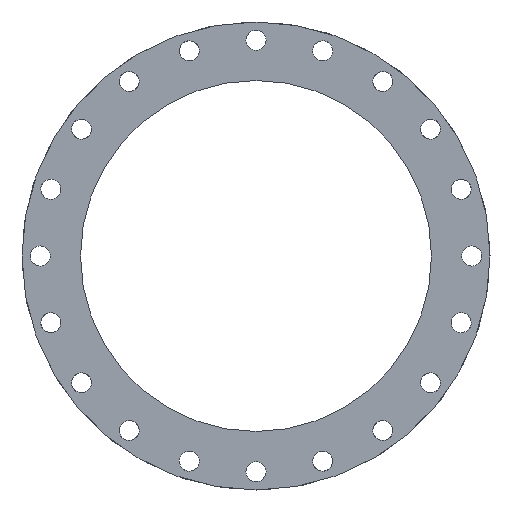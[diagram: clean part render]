
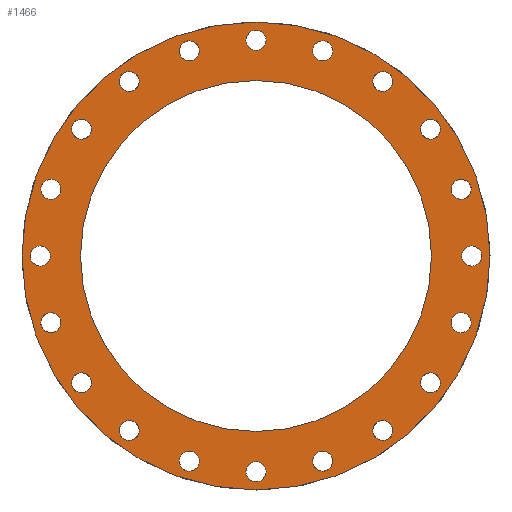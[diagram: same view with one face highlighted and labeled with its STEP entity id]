
A CAD part, left-side view. The second image highlights one B-rep face of the part: STEP entity #1466.
In plain terms, the highlighted planar face has unit normal (-1, 0, 0).
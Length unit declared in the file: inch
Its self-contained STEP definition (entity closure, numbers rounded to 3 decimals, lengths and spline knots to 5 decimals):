
#135=CARTESIAN_POINT('',(-5.,4.77045,14.68193));
#136=VERTEX_POINT('',#135);
#137=CARTESIAN_POINT('',(-5.,4.558,14.02808));
#138=DIRECTION('',(1.0,0.0,0.0));
#139=DIRECTION('',(0.0,-0.309,-0.951));
#140=AXIS2_PLACEMENT_3D('',#137,#138,#139);
#141=CIRCLE('',#140,0.6875);
#142=EDGE_CURVE('',#136,#136,#141,.T.);
#163=CARTESIAN_POINT('',(-5.,9.07393,12.4892));
#164=VERTEX_POINT('',#163);
#165=CARTESIAN_POINT('',(-5.,8.66983,11.933));
#166=DIRECTION('',(1.0,0.0,0.0));
#167=DIRECTION('',(0.0,-0.588,-0.809));
#168=AXIS2_PLACEMENT_3D('',#165,#166,#167);
#169=CIRCLE('',#168,0.6875);
#170=EDGE_CURVE('',#164,#164,#169,.T.);
#191=CARTESIAN_POINT('',(-5.,12.4892,9.07393));
#192=VERTEX_POINT('',#191);
#193=CARTESIAN_POINT('',(-5.,11.933,8.66983));
#194=DIRECTION('',(1.0,0.0,0.0));
#195=DIRECTION('',(0.0,-0.809,-0.588));
#196=AXIS2_PLACEMENT_3D('',#193,#194,#195);
#197=CIRCLE('',#196,0.6875);
#198=EDGE_CURVE('',#192,#192,#197,.T.);
#219=CARTESIAN_POINT('',(-5.,14.68193,4.77045));
#220=VERTEX_POINT('',#219);
#221=CARTESIAN_POINT('',(-5.,14.02808,4.558));
#222=DIRECTION('',(1.0,0.0,0.0));
#223=DIRECTION('',(0.0,-0.951,-0.309));
#224=AXIS2_PLACEMENT_3D('',#221,#222,#223);
#225=CIRCLE('',#224,0.6875);
#226=EDGE_CURVE('',#220,#220,#225,.T.);
#247=CARTESIAN_POINT('',(-5.,15.4375,0.));
#248=VERTEX_POINT('',#247);
#249=CARTESIAN_POINT('',(-5.,14.75,0.));
#250=DIRECTION('',(1.0,0.0,0.0));
#251=DIRECTION('',(0.0,-1.0,0.0));
#252=AXIS2_PLACEMENT_3D('',#249,#250,#251);
#253=CIRCLE('',#252,0.6875);
#254=EDGE_CURVE('',#248,#248,#253,.T.);
#275=CARTESIAN_POINT('',(-5.,14.68193,-4.77045));
#276=VERTEX_POINT('',#275);
#277=CARTESIAN_POINT('',(-5.,14.02808,-4.558));
#278=DIRECTION('',(1.0,0.0,0.0));
#279=DIRECTION('',(0.0,-0.951,0.309));
#280=AXIS2_PLACEMENT_3D('',#277,#278,#279);
#281=CIRCLE('',#280,0.6875);
#282=EDGE_CURVE('',#276,#276,#281,.T.);
#303=CARTESIAN_POINT('',(-5.,12.4892,-9.07393));
#304=VERTEX_POINT('',#303);
#305=CARTESIAN_POINT('',(-5.,11.933,-8.66983));
#306=DIRECTION('',(1.,0.0,0.0));
#307=DIRECTION('',(0.0,-0.809,0.588));
#308=AXIS2_PLACEMENT_3D('',#305,#306,#307);
#309=CIRCLE('',#308,0.6875);
#310=EDGE_CURVE('',#304,#304,#309,.T.);
#331=CARTESIAN_POINT('',(-5.,9.07393,-12.4892));
#332=VERTEX_POINT('',#331);
#333=CARTESIAN_POINT('',(-5.,8.66983,-11.933));
#334=DIRECTION('',(1.0,0.0,0.0));
#335=DIRECTION('',(0.0,-0.588,0.809));
#336=AXIS2_PLACEMENT_3D('',#333,#334,#335);
#337=CIRCLE('',#336,0.6875);
#338=EDGE_CURVE('',#332,#332,#337,.T.);
#359=CARTESIAN_POINT('',(-5.,4.77045,-14.68193));
#360=VERTEX_POINT('',#359);
#361=CARTESIAN_POINT('',(-5.,4.558,-14.02808));
#362=DIRECTION('',(1.0,0.0,0.0));
#363=DIRECTION('',(0.0,-0.309,0.951));
#364=AXIS2_PLACEMENT_3D('',#361,#362,#363);
#365=CIRCLE('',#364,0.6875);
#366=EDGE_CURVE('',#360,#360,#365,.T.);
#387=CARTESIAN_POINT('',(-5.,0.,-15.4375));
#388=VERTEX_POINT('',#387);
#389=CARTESIAN_POINT('',(-5.,0.,-14.75));
#390=DIRECTION('',(1.0,0.0,0.0));
#391=DIRECTION('',(0.0,0.0,1.0));
#392=AXIS2_PLACEMENT_3D('',#389,#390,#391);
#393=CIRCLE('',#392,0.6875);
#394=EDGE_CURVE('',#388,#388,#393,.T.);
#415=CARTESIAN_POINT('',(-5.,-4.77045,-14.68193));
#416=VERTEX_POINT('',#415);
#417=CARTESIAN_POINT('',(-5.,-4.558,-14.02808));
#418=DIRECTION('',(1.0,0.0,0.0));
#419=DIRECTION('',(0.0,0.309,0.951));
#420=AXIS2_PLACEMENT_3D('',#417,#418,#419);
#421=CIRCLE('',#420,0.6875);
#422=EDGE_CURVE('',#416,#416,#421,.T.);
#443=CARTESIAN_POINT('',(-5.,-9.07393,-12.4892));
#444=VERTEX_POINT('',#443);
#445=CARTESIAN_POINT('',(-5.,-8.66983,-11.933));
#446=DIRECTION('',(1.,0.0,0.0));
#447=DIRECTION('',(0.0,0.588,0.809));
#448=AXIS2_PLACEMENT_3D('',#445,#446,#447);
#449=CIRCLE('',#448,0.6875);
#450=EDGE_CURVE('',#444,#444,#449,.T.);
#471=CARTESIAN_POINT('',(-5.,-12.4892,-9.07393));
#472=VERTEX_POINT('',#471);
#473=CARTESIAN_POINT('',(-5.,-11.933,-8.66983));
#474=DIRECTION('',(1.0,0.0,0.0));
#475=DIRECTION('',(0.0,0.809,0.588));
#476=AXIS2_PLACEMENT_3D('',#473,#474,#475);
#477=CIRCLE('',#476,0.6875);
#478=EDGE_CURVE('',#472,#472,#477,.T.);
#499=CARTESIAN_POINT('',(-5.,-14.68193,-4.77045));
#500=VERTEX_POINT('',#499);
#501=CARTESIAN_POINT('',(-5.,-14.02808,-4.558));
#502=DIRECTION('',(1.0,0.0,0.0));
#503=DIRECTION('',(0.0,0.951,0.309));
#504=AXIS2_PLACEMENT_3D('',#501,#502,#503);
#505=CIRCLE('',#504,0.6875);
#506=EDGE_CURVE('',#500,#500,#505,.T.);
#527=CARTESIAN_POINT('',(-5.,-15.4375,0.));
#528=VERTEX_POINT('',#527);
#529=CARTESIAN_POINT('',(-5.,-14.75,0.));
#530=DIRECTION('',(1.0,0.0,0.0));
#531=DIRECTION('',(0.0,1.0,0.0));
#532=AXIS2_PLACEMENT_3D('',#529,#530,#531);
#533=CIRCLE('',#532,0.6875);
#534=EDGE_CURVE('',#528,#528,#533,.T.);
#555=CARTESIAN_POINT('',(-5.,-14.68193,4.77045));
#556=VERTEX_POINT('',#555);
#557=CARTESIAN_POINT('',(-5.,-14.02808,4.558));
#558=DIRECTION('',(1.0,0.0,0.0));
#559=DIRECTION('',(0.0,0.951,-0.309));
#560=AXIS2_PLACEMENT_3D('',#557,#558,#559);
#561=CIRCLE('',#560,0.6875);
#562=EDGE_CURVE('',#556,#556,#561,.T.);
#583=CARTESIAN_POINT('',(-5.,-12.4892,9.07393));
#584=VERTEX_POINT('',#583);
#585=CARTESIAN_POINT('',(-5.,-11.933,8.66983));
#586=DIRECTION('',(1.0,0.0,0.0));
#587=DIRECTION('',(0.0,0.809,-0.588));
#588=AXIS2_PLACEMENT_3D('',#585,#586,#587);
#589=CIRCLE('',#588,0.6875);
#590=EDGE_CURVE('',#584,#584,#589,.T.);
#611=CARTESIAN_POINT('',(-5.,-9.07393,12.4892));
#612=VERTEX_POINT('',#611);
#613=CARTESIAN_POINT('',(-5.,-8.66983,11.933));
#614=DIRECTION('',(1.0,0.0,0.0));
#615=DIRECTION('',(0.0,0.588,-0.809));
#616=AXIS2_PLACEMENT_3D('',#613,#614,#615);
#617=CIRCLE('',#616,0.6875);
#618=EDGE_CURVE('',#612,#612,#617,.T.);
#639=CARTESIAN_POINT('',(-5.,-4.77045,14.68193));
#640=VERTEX_POINT('',#639);
#641=CARTESIAN_POINT('',(-5.,-4.558,14.02808));
#642=DIRECTION('',(1.,0.0,0.0));
#643=DIRECTION('',(0.0,0.309,-0.951));
#644=AXIS2_PLACEMENT_3D('',#641,#642,#643);
#645=CIRCLE('',#644,0.6875);
#646=EDGE_CURVE('',#640,#640,#645,.T.);
#667=CARTESIAN_POINT('',(-5.,0.,15.4375));
#668=VERTEX_POINT('',#667);
#669=CARTESIAN_POINT('',(-5.,0.0,14.75));
#670=DIRECTION('',(1.0,0.0,0.0));
#671=DIRECTION('',(0.0,0.0,-1.0));
#672=AXIS2_PLACEMENT_3D('',#669,#670,#671);
#673=CIRCLE('',#672,0.6875);
#674=EDGE_CURVE('',#668,#668,#673,.T.);
#1372=CARTESIAN_POINT('',(-5.,12.,0.0));
#1373=VERTEX_POINT('',#1372);
#1374=CARTESIAN_POINT('',(-5.,0.0,0.0));
#1375=DIRECTION('',(1.0,0.0,0.0));
#1376=DIRECTION('',(0.0,1.0,0.0));
#1377=AXIS2_PLACEMENT_3D('',#1374,#1375,#1376);
#1378=CIRCLE('',#1377,12.);
#1379=EDGE_CURVE('',#1373,#1373,#1378,.T.);
#1387=CARTESIAN_POINT('',(-5.,14.,0.0));
#1388=DIRECTION('',(-1.0,0.0,0.0));
#1389=DIRECTION('',(0.0,0.0,1.0));
#1390=AXIS2_PLACEMENT_3D('',#1387,#1388,#1389);
#1391=PLANE('',#1390);
#1392=CARTESIAN_POINT('',(-5.,16.0,0.0));
#1393=VERTEX_POINT('',#1392);
#1394=CARTESIAN_POINT('',(-5.,0.0,0.0));
#1395=DIRECTION('',(1.0,0.0,0.0));
#1396=DIRECTION('',(0.0,1.0,0.0));
#1397=AXIS2_PLACEMENT_3D('',#1394,#1395,#1396);
#1398=CIRCLE('',#1397,16.0);
#1399=EDGE_CURVE('',#1393,#1393,#1398,.T.);
#1400=ORIENTED_EDGE('',*,*,#1399,.F.);
#1401=EDGE_LOOP('',(#1400));
#1402=FACE_OUTER_BOUND('',#1401,.T.);
#1403=ORIENTED_EDGE('',*,*,#142,.T.);
#1404=EDGE_LOOP('',(#1403));
#1405=FACE_BOUND('',#1404,.T.);
#1406=ORIENTED_EDGE('',*,*,#170,.T.);
#1407=EDGE_LOOP('',(#1406));
#1408=FACE_BOUND('',#1407,.T.);
#1409=ORIENTED_EDGE('',*,*,#198,.T.);
#1410=EDGE_LOOP('',(#1409));
#1411=FACE_BOUND('',#1410,.T.);
#1412=ORIENTED_EDGE('',*,*,#226,.T.);
#1413=EDGE_LOOP('',(#1412));
#1414=FACE_BOUND('',#1413,.T.);
#1415=ORIENTED_EDGE('',*,*,#254,.T.);
#1416=EDGE_LOOP('',(#1415));
#1417=FACE_BOUND('',#1416,.T.);
#1418=ORIENTED_EDGE('',*,*,#282,.T.);
#1419=EDGE_LOOP('',(#1418));
#1420=FACE_BOUND('',#1419,.T.);
#1421=ORIENTED_EDGE('',*,*,#310,.T.);
#1422=EDGE_LOOP('',(#1421));
#1423=FACE_BOUND('',#1422,.T.);
#1424=ORIENTED_EDGE('',*,*,#338,.T.);
#1425=EDGE_LOOP('',(#1424));
#1426=FACE_BOUND('',#1425,.T.);
#1427=ORIENTED_EDGE('',*,*,#366,.T.);
#1428=EDGE_LOOP('',(#1427));
#1429=FACE_BOUND('',#1428,.T.);
#1430=ORIENTED_EDGE('',*,*,#394,.T.);
#1431=EDGE_LOOP('',(#1430));
#1432=FACE_BOUND('',#1431,.T.);
#1433=ORIENTED_EDGE('',*,*,#422,.T.);
#1434=EDGE_LOOP('',(#1433));
#1435=FACE_BOUND('',#1434,.T.);
#1436=ORIENTED_EDGE('',*,*,#450,.T.);
#1437=EDGE_LOOP('',(#1436));
#1438=FACE_BOUND('',#1437,.T.);
#1439=ORIENTED_EDGE('',*,*,#478,.T.);
#1440=EDGE_LOOP('',(#1439));
#1441=FACE_BOUND('',#1440,.T.);
#1442=ORIENTED_EDGE('',*,*,#506,.T.);
#1443=EDGE_LOOP('',(#1442));
#1444=FACE_BOUND('',#1443,.T.);
#1445=ORIENTED_EDGE('',*,*,#534,.T.);
#1446=EDGE_LOOP('',(#1445));
#1447=FACE_BOUND('',#1446,.T.);
#1448=ORIENTED_EDGE('',*,*,#562,.T.);
#1449=EDGE_LOOP('',(#1448));
#1450=FACE_BOUND('',#1449,.T.);
#1451=ORIENTED_EDGE('',*,*,#590,.T.);
#1452=EDGE_LOOP('',(#1451));
#1453=FACE_BOUND('',#1452,.T.);
#1454=ORIENTED_EDGE('',*,*,#618,.T.);
#1455=EDGE_LOOP('',(#1454));
#1456=FACE_BOUND('',#1455,.T.);
#1457=ORIENTED_EDGE('',*,*,#646,.T.);
#1458=EDGE_LOOP('',(#1457));
#1459=FACE_BOUND('',#1458,.T.);
#1460=ORIENTED_EDGE('',*,*,#674,.T.);
#1461=EDGE_LOOP('',(#1460));
#1462=FACE_BOUND('',#1461,.T.);
#1463=ORIENTED_EDGE('',*,*,#1379,.T.);
#1464=EDGE_LOOP('',(#1463));
#1465=FACE_BOUND('',#1464,.T.);
#1466=ADVANCED_FACE('',(#1402,#1405,#1408,#1411,#1414,#1417,#1420,#1423,#1426,#1429,#1432,#1435,#1438,#1441,#1444,#1447,#1450,#1453,#1456,#1459,#1462,#1465),#1391,.T.);
